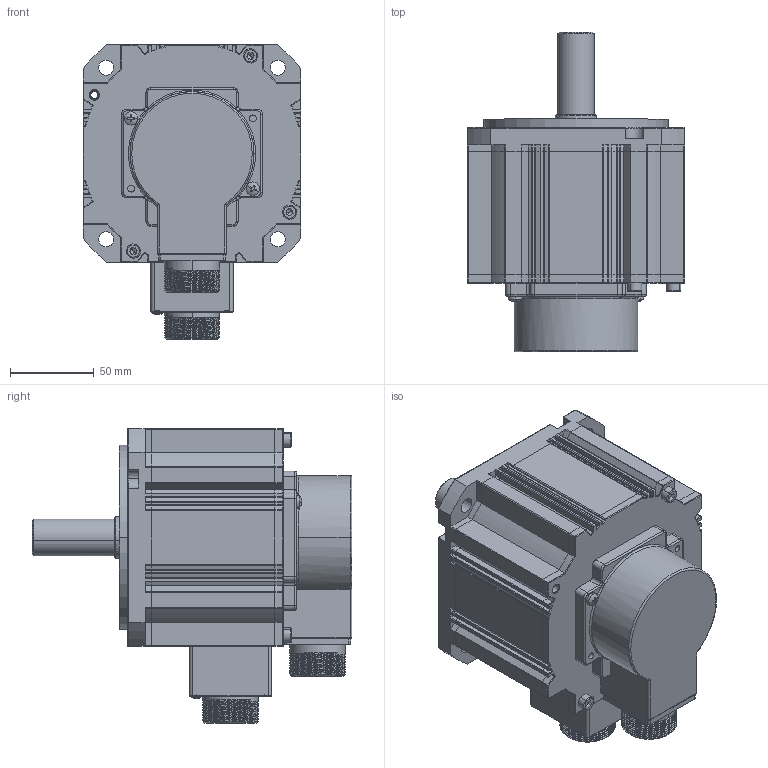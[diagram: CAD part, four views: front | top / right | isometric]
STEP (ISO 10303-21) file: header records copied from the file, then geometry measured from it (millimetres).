
FILE_DESCRIPTION (( 'STEP AP203' ), '1' );
FILE_NAME ('WF130ST-M047720-3D.STEP', '2021-07-26T09:11:03', ( '' ), ( '' ), 'SwSTEP 2.0', 'SolidWorks 2018', '' );
FILE_SCHEMA (( 'CONFIG_CONTROL_DESIGN' ));
Length unit declared in the file: millimetre
Products named in the file (16): ヶ傷裔; 蛌赽軞傖; deep groove ball bearings gb_Rolling bearings 6204 GB 276-94; cross recessed pan head screws gb_GB_CROSS_SCREWS_TYPE1 M3X12-12  H type-N; hexagon socket head cap screws gb_GB_FASTENER_SCREWS_HSHCS M5X20-N; jike; deep groove ball bearings gb_Rolling bearings 6205 GB 276-94; 瑤脣裔; 粣; 瑤脣窒煦; cross recessed pan head screws gb_GB_CROSS_SCREWS_TYPE1 M4X12-12  H type-N; WF130ST-M047720-3D; 盓傅啣; 綴傷裔; 脣釱1; 晤鎢欶裔
Assembly tree (22 placements, depth 3):
  WF130ST-M047720-3D
    jike
    瑤脣窒煦
      瑤脣裔
      脣釱1
      盓傅啣
    ヶ傷裔
    綴傷裔
    晤鎢欶裔
    脣釱1
    hexagon socket head cap screws gb_GB_FASTENER_SCREWS_HSHCS M5X20-N  x4
    cross recessed pan head screws gb_GB_CROSS_SCREWS_TYPE1 M4X12-12  H type-N  x2
    cross recessed pan head screws gb_GB_CROSS_SCREWS_TYPE1 M3X12-12  H type-N
    蛌赽軞傖
      粣
      deep groove ball bearings gb_Rolling bearings 6205 GB 276-94  x2
      deep groove ball bearings gb_Rolling bearings 6204 GB 276-94  x2
Bounding box: 130 x 191 x 176 mm (x, y, z)
Volume: 730579.6 mm3; surface area: 319683.8 mm2
Topology: 20 solids, 20 shells, 2358 faces, 6862 edges, 4370 vertices
Faces by surface type: cylinder 955, plane 611, torus 486, sphere 148, bspline 116, cone 42
Entity records: 73785 total; most frequent: CARTESIAN_POINT 23769, ORIENTED_EDGE 10402, DIRECTION 10068, EDGE_CURVE 5201, AXIS2_PLACEMENT_3D 4034, VERTEX_POINT 3275, CIRCLE 2168, EDGE_LOOP 2100
